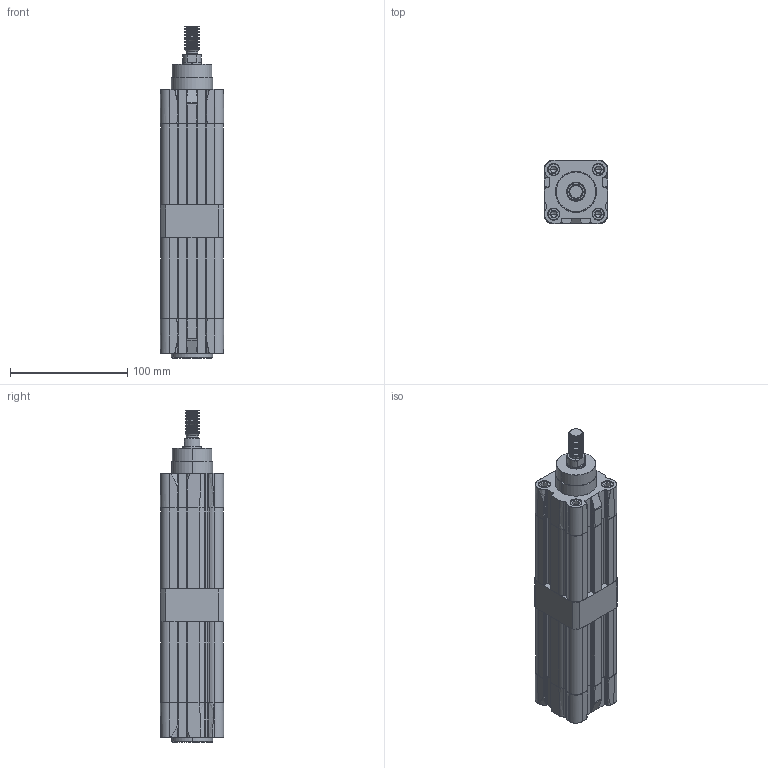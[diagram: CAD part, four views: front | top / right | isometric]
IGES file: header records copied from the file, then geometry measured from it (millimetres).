
Start section: SolidWorks IGES file using analytic representation for surfaces
Global section: file name: c:\CATALO3D\IGS\TTX40.0025TN2.IGS; native system: SolidWorks 2005 by SolidWorks Corporation; preprocessor: SolidWorks 2005 by SolidWorks Corporation; author: tania; date: 060206.092223; units: millimetre
Bounding box: 54 x 54.15 x 283 mm (x, y, z)
Surface area: 150265.5 mm2 (no closed solid volume)
Topology: 0 solids, 0 shells, 1517 faces, 32326 edges, 39618 vertices
Faces by surface type: revolution 909, bspline 608
